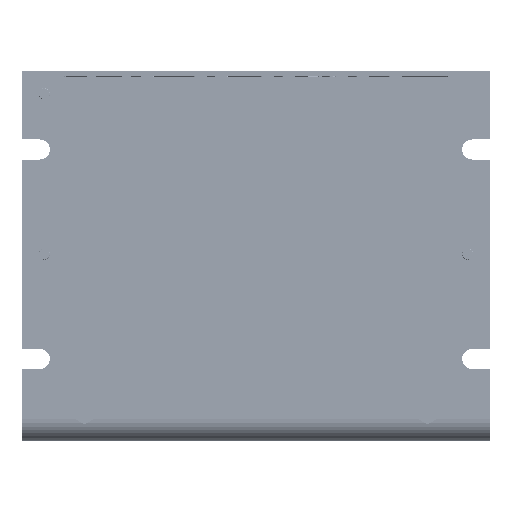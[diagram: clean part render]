
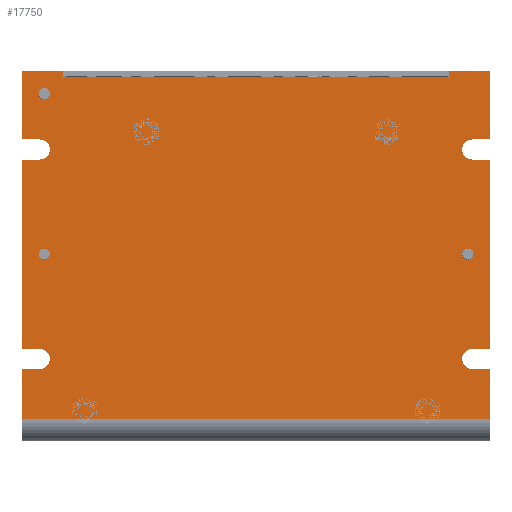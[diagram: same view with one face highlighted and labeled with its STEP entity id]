
A CAD part, front view. The second image highlights one B-rep face of the part: STEP entity #17750.
In plain terms, the highlighted planar face has unit normal (0, -1, 0).
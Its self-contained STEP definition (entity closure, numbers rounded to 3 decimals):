
#16018=DIRECTION('',(1.,0.,0.));
#16019=VECTOR('',#16018,105.);
#16020=CARTESIAN_POINT('',(-52.5,0.,5.));
#16021=LINE('',#16020,#16019);
#16421=CARTESIAN_POINT('',(-47.5,0.,78.));
#16422=DIRECTION('',(0.,1.,0.));
#16423=DIRECTION('',(1.,0.,0.));
#16424=AXIS2_PLACEMENT_3D('',#16421,#16422,#16423);
#16429=CARTESIAN_POINT('',(-47.5,0.,78.));
#16430=DIRECTION('',(0.,1.,0.));
#16431=DIRECTION('',(-1.,0.,0.));
#16432=AXIS2_PLACEMENT_3D('',#16429,#16430,#16431);
#16437=CARTESIAN_POINT('',(-47.5,0.,42.));
#16438=DIRECTION('',(0.,1.,0.));
#16439=DIRECTION('',(1.,0.,0.));
#16440=AXIS2_PLACEMENT_3D('',#16437,#16438,#16439);
#16445=CARTESIAN_POINT('',(-47.5,0.,42.));
#16446=DIRECTION('',(0.,1.,0.));
#16447=DIRECTION('',(-1.,0.,0.));
#16448=AXIS2_PLACEMENT_3D('',#16445,#16446,#16447);
#16453=CARTESIAN_POINT('',(47.5,0.,42.));
#16454=DIRECTION('',(0.,-1.,0.));
#16455=DIRECTION('',(-1.,0.,0.));
#16456=AXIS2_PLACEMENT_3D('',#16453,#16454,#16455);
#16461=CARTESIAN_POINT('',(47.5,0.,42.));
#16462=DIRECTION('',(0.,-1.,0.));
#16463=DIRECTION('',(1.,0.,0.));
#16464=AXIS2_PLACEMENT_3D('',#16461,#16462,#16463);
#16469=DIRECTION('',(1.,0.,0.));
#16470=VECTOR('',#16469,86.4);
#16471=CARTESIAN_POINT('',(-43.2,0.,81.75));
#16472=LINE('',#16471,#16470);
#16476=DIRECTION('',(0.,0.,-1.));
#16477=VECTOR('',#16476,1.25);
#16478=CARTESIAN_POINT('',(43.2,0.,83.));
#16479=LINE('',#16478,#16477);
#16483=DIRECTION('',(1.,0.,0.));
#16484=VECTOR('',#16483,9.3);
#16485=CARTESIAN_POINT('',(43.2,0.,83.));
#16486=LINE('',#16485,#16484);
#16490=DIRECTION('',(-1.,0.,0.));
#16491=VECTOR('',#16490,4.);
#16492=CARTESIAN_POINT('',(52.5,0.,67.75));
#16493=LINE('',#16492,#16491);
#16497=CARTESIAN_POINT('',(48.5,0.,65.5));
#16498=DIRECTION('',(0.,-1.,0.));
#16499=DIRECTION('',(0.,0.,1.));
#16500=AXIS2_PLACEMENT_3D('',#16497,#16498,#16499);
#16505=DIRECTION('',(-1.,0.,0.));
#16506=VECTOR('',#16505,4.);
#16507=CARTESIAN_POINT('',(52.5,0.,63.25));
#16508=LINE('',#16507,#16506);
#16512=DIRECTION('',(-1.,0.,0.));
#16513=VECTOR('',#16512,4.);
#16514=CARTESIAN_POINT('',(52.5,0.,20.75));
#16515=LINE('',#16514,#16513);
#16519=CARTESIAN_POINT('',(48.5,0.,18.5));
#16520=DIRECTION('',(0.,-1.,0.));
#16521=DIRECTION('',(0.,0.,1.));
#16522=AXIS2_PLACEMENT_3D('',#16519,#16520,#16521);
#16527=DIRECTION('',(-1.,0.,0.));
#16528=VECTOR('',#16527,4.);
#16529=CARTESIAN_POINT('',(52.5,0.,16.25));
#16530=LINE('',#16529,#16528);
#16534=DIRECTION('',(1.,0.,0.));
#16535=VECTOR('',#16534,4.);
#16536=CARTESIAN_POINT('',(-52.5,0.,16.25));
#16537=LINE('',#16536,#16535);
#16541=CARTESIAN_POINT('',(-48.5,0.,18.5));
#16542=DIRECTION('',(0.,1.,0.));
#16543=DIRECTION('',(0.,0.,1.));
#16544=AXIS2_PLACEMENT_3D('',#16541,#16542,#16543);
#16549=DIRECTION('',(1.,0.,0.));
#16550=VECTOR('',#16549,4.);
#16551=CARTESIAN_POINT('',(-52.5,0.,20.75));
#16552=LINE('',#16551,#16550);
#16556=DIRECTION('',(1.,0.,0.));
#16557=VECTOR('',#16556,4.);
#16558=CARTESIAN_POINT('',(-52.5,0.,63.25));
#16559=LINE('',#16558,#16557);
#16563=CARTESIAN_POINT('',(-48.5,0.,65.5));
#16564=DIRECTION('',(0.,1.,0.));
#16565=DIRECTION('',(0.,0.,1.));
#16566=AXIS2_PLACEMENT_3D('',#16563,#16564,#16565);
#16571=DIRECTION('',(1.,0.,0.));
#16572=VECTOR('',#16571,4.);
#16573=CARTESIAN_POINT('',(-52.5,0.,67.75));
#16574=LINE('',#16573,#16572);
#16578=DIRECTION('',(1.,0.,0.));
#16579=VECTOR('',#16578,9.3);
#16580=CARTESIAN_POINT('',(-52.5,0.,83.));
#16581=LINE('',#16580,#16579);
#16585=DIRECTION('',(0.,0.,-1.));
#16586=VECTOR('',#16585,1.25);
#16587=CARTESIAN_POINT('',(-43.2,0.,83.));
#16588=LINE('',#16587,#16586);
#16813=DIRECTION('',(0.,0.,-1.));
#16814=VECTOR('',#16813,15.25);
#16815=CARTESIAN_POINT('',(-52.5,0.,83.));
#16816=LINE('',#16815,#16814);
#16855=DIRECTION('',(0.,0.,-1.));
#16856=VECTOR('',#16855,42.5);
#16857=CARTESIAN_POINT('',(-52.5,0.,63.25));
#16858=LINE('',#16857,#16856);
#16883=DIRECTION('',(0.,0.,-1.));
#16884=VECTOR('',#16883,11.25);
#16885=CARTESIAN_POINT('',(-52.5,0.,16.25));
#16886=LINE('',#16885,#16884);
#16918=DIRECTION('',(0.,0.,-1.));
#16919=VECTOR('',#16918,15.25);
#16920=CARTESIAN_POINT('',(52.5,0.,83.));
#16921=LINE('',#16920,#16919);
#16974=DIRECTION('',(0.,0.,-1.));
#16975=VECTOR('',#16974,42.5);
#16976=CARTESIAN_POINT('',(52.5,0.,63.25));
#16977=LINE('',#16976,#16975);
#17016=DIRECTION('',(0.,0.,-1.));
#17017=VECTOR('',#17016,11.25);
#17018=CARTESIAN_POINT('',(52.5,0.,16.25));
#17019=LINE('',#17018,#17017);
#17027=CARTESIAN_POINT('',(-52.5,0.,5.));
#17028=CARTESIAN_POINT('',(52.5,0.,5.));
#17029=VERTEX_POINT('',#17027);
#17030=VERTEX_POINT('',#17028);
#17047=CARTESIAN_POINT('',(-52.5,0.,83.));
#17049=VERTEX_POINT('',#17047);
#17051=CARTESIAN_POINT('',(52.5,0.,83.));
#17053=VERTEX_POINT('',#17051);
#17071=CARTESIAN_POINT('',(-52.5,0.,63.25));
#17072=CARTESIAN_POINT('',(-48.5,0.,63.25));
#17073=VERTEX_POINT('',#17071);
#17074=VERTEX_POINT('',#17072);
#17075=CARTESIAN_POINT('',(-48.5,0.,67.75));
#17076=VERTEX_POINT('',#17075);
#17077=CARTESIAN_POINT('',(-52.5,0.,67.75));
#17078=VERTEX_POINT('',#17077);
#17079=CARTESIAN_POINT('',(-52.5,0.,20.75));
#17080=VERTEX_POINT('',#17079);
#17091=CARTESIAN_POINT('',(-48.5,0.,20.75));
#17092=CARTESIAN_POINT('',(-48.5,0.,16.25));
#17093=VERTEX_POINT('',#17091);
#17094=VERTEX_POINT('',#17092);
#17095=CARTESIAN_POINT('',(-52.5,0.,16.25));
#17096=VERTEX_POINT('',#17095);
#17119=CARTESIAN_POINT('',(52.5,0.,63.25));
#17120=CARTESIAN_POINT('',(48.5,0.,63.25));
#17121=VERTEX_POINT('',#17119);
#17122=VERTEX_POINT('',#17120);
#17123=CARTESIAN_POINT('',(48.5,0.,67.75));
#17124=VERTEX_POINT('',#17123);
#17125=CARTESIAN_POINT('',(52.5,0.,67.75));
#17126=VERTEX_POINT('',#17125);
#17127=CARTESIAN_POINT('',(48.5,0.,20.75));
#17128=CARTESIAN_POINT('',(48.5,0.,16.25));
#17129=VERTEX_POINT('',#17127);
#17130=VERTEX_POINT('',#17128);
#17131=CARTESIAN_POINT('',(52.5,0.,20.75));
#17132=VERTEX_POINT('',#17131);
#17133=CARTESIAN_POINT('',(52.5,0.,16.25));
#17134=VERTEX_POINT('',#17133);
#17151=CARTESIAN_POINT('',(-46.25,0.,78.));
#17152=CARTESIAN_POINT('',(-48.75,0.,78.));
#17153=VERTEX_POINT('',#17151);
#17154=VERTEX_POINT('',#17152);
#17159=CARTESIAN_POINT('',(-46.25,0.,42.));
#17160=CARTESIAN_POINT('',(-48.75,0.,42.));
#17161=VERTEX_POINT('',#17159);
#17162=VERTEX_POINT('',#17160);
#17163=CARTESIAN_POINT('',(46.25,0.,42.));
#17164=CARTESIAN_POINT('',(48.75,0.,42.));
#17165=VERTEX_POINT('',#17163);
#17166=VERTEX_POINT('',#17164);
#17207=CARTESIAN_POINT('',(-43.2,0.,81.75));
#17208=CARTESIAN_POINT('',(43.2,0.,81.75));
#17209=VERTEX_POINT('',#17207);
#17210=VERTEX_POINT('',#17208);
#17211=CARTESIAN_POINT('',(43.2,0.,83.));
#17212=VERTEX_POINT('',#17211);
#17213=CARTESIAN_POINT('',(-43.2,0.,83.));
#17214=VERTEX_POINT('',#17213);
#17679=CARTESIAN_POINT('',(-52.5,0.,83.));
#17680=DIRECTION('',(0.,-1.,0.));
#17681=DIRECTION('',(0.,0.,-1.));
#17682=AXIS2_PLACEMENT_3D('',#17679,#17680,#17681);
#17683=PLANE('',#17682);
#17685=ORIENTED_EDGE('',*,*,#17684,.T.);
#17687=ORIENTED_EDGE('',*,*,#17686,.F.);
#17689=ORIENTED_EDGE('',*,*,#17688,.T.);
#17691=ORIENTED_EDGE('',*,*,#17690,.T.);
#17693=ORIENTED_EDGE('',*,*,#17692,.T.);
#17695=ORIENTED_EDGE('',*,*,#17694,.T.);
#17697=ORIENTED_EDGE('',*,*,#17696,.F.);
#17699=ORIENTED_EDGE('',*,*,#17698,.T.);
#17701=ORIENTED_EDGE('',*,*,#17700,.T.);
#17703=ORIENTED_EDGE('',*,*,#17702,.T.);
#17705=ORIENTED_EDGE('',*,*,#17704,.F.);
#17707=ORIENTED_EDGE('',*,*,#17706,.T.);
#17708=ORIENTED_EDGE('',*,*,#17415,.F.);
#17710=ORIENTED_EDGE('',*,*,#17709,.F.);
#17712=ORIENTED_EDGE('',*,*,#17711,.T.);
#17714=ORIENTED_EDGE('',*,*,#17713,.F.);
#17716=ORIENTED_EDGE('',*,*,#17715,.F.);
#17718=ORIENTED_EDGE('',*,*,#17717,.F.);
#17720=ORIENTED_EDGE('',*,*,#17719,.T.);
#17722=ORIENTED_EDGE('',*,*,#17721,.F.);
#17724=ORIENTED_EDGE('',*,*,#17723,.F.);
#17726=ORIENTED_EDGE('',*,*,#17725,.F.);
#17728=ORIENTED_EDGE('',*,*,#17727,.T.);
#17730=ORIENTED_EDGE('',*,*,#17729,.T.);
#17731=EDGE_LOOP('',(#17685,#17687,#17689,#17691,#17693,#17695,#17697,#17699,
#17701,#17703,#17705,#17707,#17708,#17710,#17712,#17714,#17716,#17718,#17720,
#17722,#17724,#17726,#17728,#17730));
#17732=FACE_OUTER_BOUND('',#17731,.F.);
#17734=ORIENTED_EDGE('',*,*,#17733,.F.);
#17736=ORIENTED_EDGE('',*,*,#17735,.F.);
#17737=EDGE_LOOP('',(#17734,#17736));
#17738=FACE_BOUND('',#17737,.F.);
#17740=ORIENTED_EDGE('',*,*,#17739,.T.);
#17742=ORIENTED_EDGE('',*,*,#17741,.T.);
#17743=EDGE_LOOP('',(#17740,#17742));
#17744=FACE_BOUND('',#17743,.F.);
#17745=ORIENTED_EDGE('',*,*,#17657,.F.);
#17747=ORIENTED_EDGE('',*,*,#17746,.F.);
#17748=EDGE_LOOP('',(#17745,#17747));
#17749=FACE_BOUND('',#17748,.F.);
#17750=ADVANCED_FACE('',(#17732,#17738,#17744,#17749),#17683,.T.);
#16425=CIRCLE('',#16424,1.25);
#16433=CIRCLE('',#16432,1.25);
#16441=CIRCLE('',#16440,1.25);
#16449=CIRCLE('',#16448,1.25);
#16457=CIRCLE('',#16456,1.25);
#16465=CIRCLE('',#16464,1.25);
#16501=CIRCLE('',#16500,2.25);
#16523=CIRCLE('',#16522,2.25);
#16545=CIRCLE('',#16544,2.25);
#16567=CIRCLE('',#16566,2.25);
#17415=EDGE_CURVE('',#17029,#17030,#16021,.T.);
#17657=EDGE_CURVE('',#17153,#17154,#16425,.T.);
#17684=EDGE_CURVE('',#17209,#17210,#16472,.T.);
#17686=EDGE_CURVE('',#17212,#17210,#16479,.T.);
#17688=EDGE_CURVE('',#17212,#17053,#16486,.T.);
#17690=EDGE_CURVE('',#17053,#17126,#16921,.T.);
#17692=EDGE_CURVE('',#17126,#17124,#16493,.T.);
#17694=EDGE_CURVE('',#17124,#17122,#16501,.T.);
#17696=EDGE_CURVE('',#17121,#17122,#16508,.T.);
#17698=EDGE_CURVE('',#17121,#17132,#16977,.T.);
#17700=EDGE_CURVE('',#17132,#17129,#16515,.T.);
#17702=EDGE_CURVE('',#17129,#17130,#16523,.T.);
#17704=EDGE_CURVE('',#17134,#17130,#16530,.T.);
#17706=EDGE_CURVE('',#17134,#17030,#17019,.T.);
#17709=EDGE_CURVE('',#17096,#17029,#16886,.T.);
#17711=EDGE_CURVE('',#17096,#17094,#16537,.T.);
#17713=EDGE_CURVE('',#17093,#17094,#16545,.T.);
#17715=EDGE_CURVE('',#17080,#17093,#16552,.T.);
#17717=EDGE_CURVE('',#17073,#17080,#16858,.T.);
#17719=EDGE_CURVE('',#17073,#17074,#16559,.T.);
#17721=EDGE_CURVE('',#17076,#17074,#16567,.T.);
#17723=EDGE_CURVE('',#17078,#17076,#16574,.T.);
#17725=EDGE_CURVE('',#17049,#17078,#16816,.T.);
#17727=EDGE_CURVE('',#17049,#17214,#16581,.T.);
#17729=EDGE_CURVE('',#17214,#17209,#16588,.T.);
#17733=EDGE_CURVE('',#17161,#17162,#16441,.T.);
#17735=EDGE_CURVE('',#17162,#17161,#16449,.T.);
#17739=EDGE_CURVE('',#17165,#17166,#16457,.T.);
#17741=EDGE_CURVE('',#17166,#17165,#16465,.T.);
#17746=EDGE_CURVE('',#17154,#17153,#16433,.T.);
